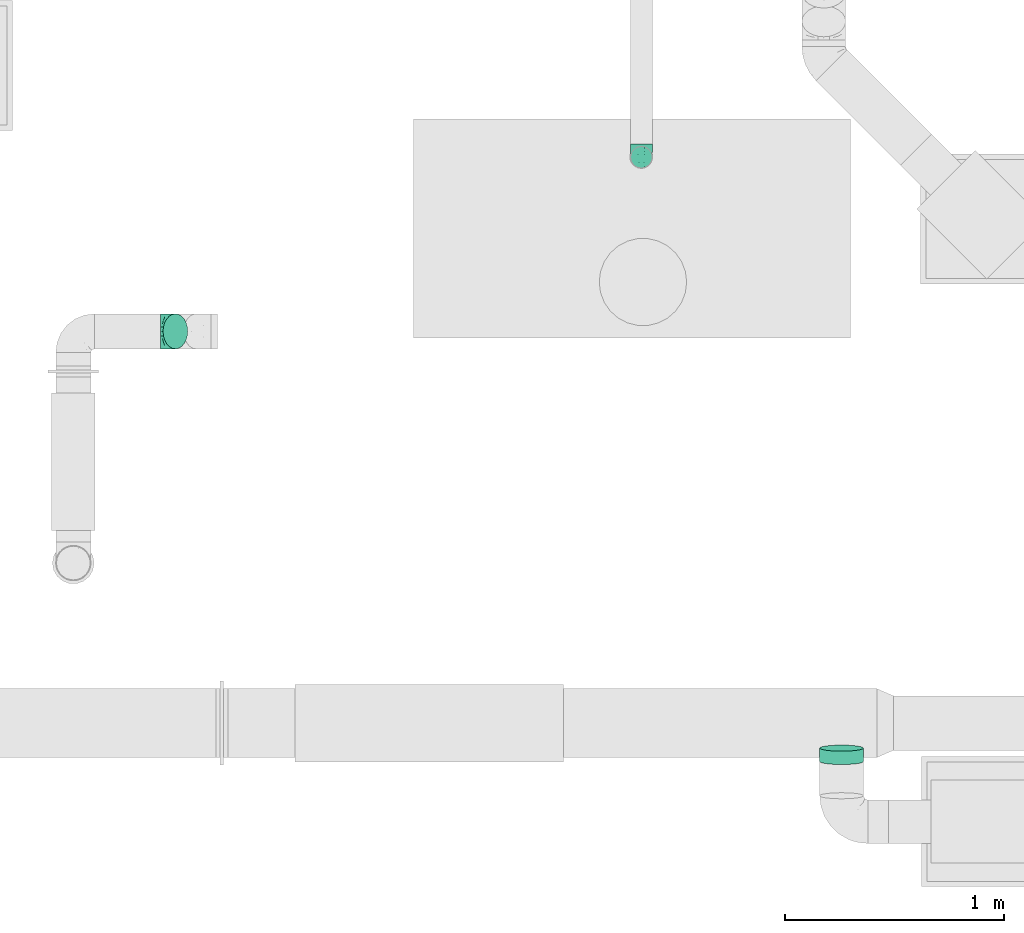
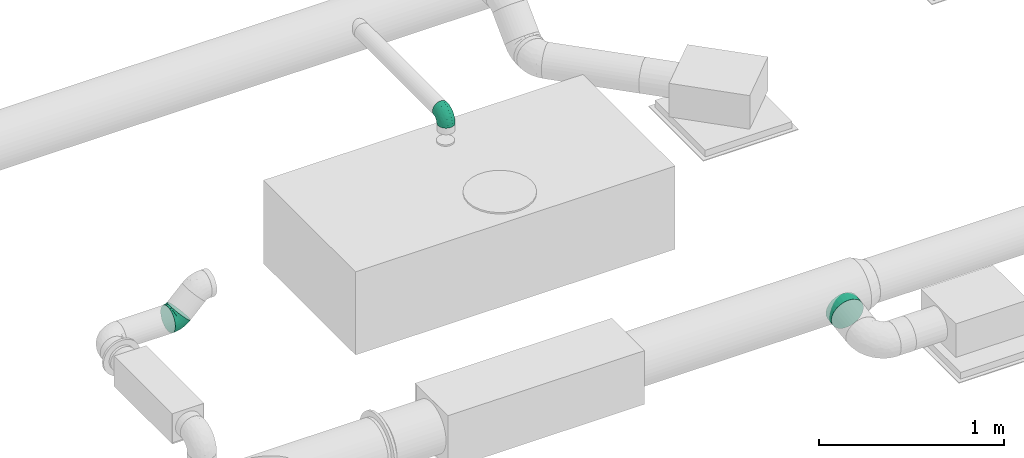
# One storey, part 13 of 16: 3 flow fittings.
"""IFC2X3 building model written with IfcOpenShell, lengths in millimetres."""

from ifc_helpers import new_model, entity, si_unit, converted_unit, derived_unit, direction, frame, origin_with_axes, place, context, subcontext, project, spatial, open_shell, surface_model, source, transform, mapped, type_object, element, save


model = new_model("IFC2X3")

# Units and contexts
model_context = context("Model", 3, precision=0.01, world=frame((0.0, 4.29681676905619e-09, 0.0)), true_north=direction((4.01073788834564e-13, 1.0)))
plan_context = context("Plan", 3, precision=0.01, world=frame((0.0, 4.29681676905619e-09, 0.0)), true_north=direction((4.01073788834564e-13, 1.0)))
body_context = subcontext(model_context, "Body", "Model", "MODEL_VIEW")
ifc_project = project(units=[converted_unit("PLANEANGLEUNIT", "DEGREE", entity("IfcPositiveLengthMeasure", 0.0174532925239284), si_unit("PLANEANGLEUNIT", "RADIAN"), dimensions=[0, 0, 0, 0, 0, 0, 0]), si_unit("AREAUNIT", "SQUARE_METRE"), si_unit("LENGTHUNIT", "METRE", prefix="MILLI"), si_unit("MASSUNIT", "GRAM", prefix="KILO"), si_unit("POWERUNIT", "WATT"), si_unit("PRESSUREUNIT", "PASCAL"), si_unit("FORCEUNIT", "NEWTON", prefix="KILO"), si_unit("ELECTRICVOLTAGEUNIT", "VOLT"), si_unit("ELECTRICCURRENTUNIT", "AMPERE"), si_unit("THERMODYNAMICTEMPERATUREUNIT", "DEGREE_CELSIUS"), si_unit("TIMEUNIT", "SECOND"), si_unit("VOLUMEUNIT", "CUBIC_METRE"), derived_unit("LINEARVELOCITYUNIT", [(si_unit("LENGTHUNIT", "METRE"), 1), (si_unit("TIMEUNIT", "SECOND"), -1)]), derived_unit("VOLUMETRICFLOWRATEUNIT", [(si_unit("VOLUMEUNIT", "CUBIC_METRE"), 1), (si_unit("TIMEUNIT", "SECOND"), -1)]), derived_unit("THERMALTRANSMITTANCEUNIT", [(si_unit("POWERUNIT", "WATT"), 1), (si_unit("THERMODYNAMICTEMPERATUREUNIT", "KELVIN"), -1), (si_unit("AREAUNIT", "SQUARE_METRE"), -1)]), derived_unit("SOUNDPRESSUREUNIT", [(si_unit("PRESSUREUNIT", "PASCAL"), 1)])], contexts=[model_context, plan_context])

# Site, building, storey
site_placement = place(None, frame((0.0, -4.29681676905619e-09, 0.0), z_axis=(0.0, 0.0, 1.0), x_axis=(1.0, 0.0, 0.0)))
site = spatial("IfcSite", under=ifc_project, at=site_placement, Name="ENGM", CompositionType="ELEMENT")
building_placement = place(site_placement, frame((0.0, 4.29681676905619e-09, 0.0), z_axis=(0.0, 0.0, 1.0), x_axis=(1.0, 0.0, 0.0)))
building = spatial("IfcBuilding", under=site, at=building_placement, Name="TH", CompositionType="ELEMENT")
storey_placement = place(building_placement, frame((0.0, 0.0, 210200.0), z_axis=(0.0, 0.0, 1.0), x_axis=(1.0, 0.0, 0.0)))
storey = spatial("IfcBuildingStorey", under=building, at=storey_placement, Name="Nivå F - 0,7 m", CompositionType="ELEMENT", Elevation=210200.0)

# Flow fittings
duct_fitting_type_1 = type_object("IfcDuctFittingType", Name="magicirc_elbow_short_001", PredefinedType="BEND")
shared_shape_1 = source(origin_with_axes(), body_context, "Body", "SurfaceModel", [
    surface_model("IfcShellBasedSurfaceModel", [(-60.0, 0.0, -50.0), (-60.0, -35.35534, -35.35534), (-60.0, 12.94095, -48.29629), (-60.0, 25.0, -43.30127), (-60.0, 35.35534, -35.35534), (-60.0, 48.29629, -12.94095), (-60.0, 43.30127, -25.0), (-60.0, -43.30127, -25.0), (-60.0, -25.0, -43.30127), (-60.0, -12.94095, -48.29629), (-60.0, -48.29629, -12.94095), (-60.0, -50.0, 0.0), (-60.0, 48.29629, 12.94095), (-60.0, -48.29629, 12.94095), (-60.0, 43.30127, 25.0), (-60.0, 12.94095, 48.29629), (-60.0, 25.0, 43.30127), (-60.0, 35.35534, 35.35534), (-60.0, -12.94095, 48.29629), (-60.0, -35.35534, 35.35534), (-60.0, -25.0, 43.30127), (-60.0, -43.30127, 25.0), (-60.0, 0.0, 50.0), (-60.0, 50.0, 0.0), (-12.94095, 60.0, -48.29629), (35.35534, 60.0, -35.35534), (0.0, 60.0, -50.0), (-35.35534, 60.0, -35.35534), (-25.0, 60.0, -43.30127), (-43.30127, 60.0, -25.0), (-48.29629, 60.0, -12.94095), (43.30127, 60.0, -25.0), (12.94095, 60.0, -48.29629), (25.0, 60.0, -43.30127), (50.0, 60.0, 0.0), (48.29629, 60.0, -12.94095), (-48.29629, 60.0, 12.94095), (48.29629, 60.0, 12.94095), (-12.94095, 60.0, 48.29629), (-43.30127, 60.0, 25.0), (-35.35534, 60.0, 35.35534), (-25.0, 60.0, 43.30127), (12.94095, 60.0, 48.29629), (43.30127, 60.0, 25.0), (25.0, 60.0, 43.30127), (35.35534, 60.0, 35.35534), (0.0, 60.0, 50.0), (-50.0, 60.0, 0.0), (-49.05641, -40.78014, 28.07686), (-41.74139, -46.3367, 14.36222), (-34.4613, -40.27816, 24.68934), (-43.00407, -47.30811, 0.0), (-49.94523, 14.00946, 48.30105), (-46.95313, 28.96914, 42.50075), (46.3367, 41.74139, 14.36222), (-20.88861, -37.03291, 22.5647), (-16.4026, -28.83356, 31.34472), (-28.91958, -34.3595, 30.85223), (18.10514, 18.66307, 41.17251), (21.58514, 39.36004, 43.778), (8.51327, 29.84903, 47.74257), (-16.99336, 43.11283, 48.05884), (-3.94145, 44.15134, 49.96957), (-39.36004, -21.58514, 43.778), (-18.66308, -18.10515, 41.17251), (-29.84903, -8.51328, 47.74257), (-41.9573, -32.34565, 36.5753), (-28.37388, -26.91103, 38.00832), (-51.90807, 51.90807, 11.92844), (-47.80359, 49.33659, 24.11672), (-28.93889, 47.43922, 42.40283), (-46.41197, -8.97787, 48.92686), (-0.09017, -16.24979, 33.6631), (12.70267, -16.06536, 21.33056), (15.36559, -1.44444, 33.36569), (-60.0, 18.97048, 45.79878), (-40.35124, 17.20012, 48.30581), (-43.53571, 3.92608, 49.97569), (-26.09843, 9.45196, 49.99253), (-51.5116, 38.91169, 33.33375), (32.34565, 41.9573, 36.5753), (34.35951, 28.91958, 30.85223), (40.27816, 34.4613, 24.68934), (-52.61929, 44.31625, 26.06878), (8.97787, 46.41197, 48.92686), (35.05077, 17.83795, 23.78173), (-10.91916, -35.95936, 14.72435), (0.1648, -30.9508, 9.70158), (-0.15411, -27.04416, 20.4372), (40.78014, 49.05641, 28.07686), (42.5446, 25.37721, 13.17911), (10.3038, -23.16744, 10.42515), (23.10443, -10.2139, 10.9112), (44.61622, 26.00813, 0.0), (47.30811, 43.00407, 0.0), (-41.6247, 41.6247, 36.64818), (-32.79843, 33.16447, 45.0026), (-7.74598, 15.87608, 49.29079), (-16.01986, 0.79004, 48.07025), (-10.25052, 32.07013, 49.9131), (-52.92893, 52.92893, 0.0), (-38.91169, 51.5116, 33.33375), (28.83356, 16.40259, 31.34471), (27.33735, 28.92629, 37.82427), (-10.67588, -36.80404, 0.0), (-21.08205, 25.01341, 49.40856), (-25.37722, -42.5446, 13.17911), (-29.47083, 18.17163, 49.32045), (-0.61358, 32.07268, 49.68255), (-26.00813, -44.61622, 0.0), (7.80932, 12.55065, 44.51845), (-1.21982, 1.21981, 44.32954), (4.65638, -28.99187, 0.0), (25.46941, -0.89956, 21.90452), (30.92711, -0.19201, 9.72551), (36.80404, 10.67588, 0.0), (8.17237, 0.7096, 39.73636), (-1.20691, -8.42775, 39.83684), (-11.83114, -8.12805, 44.16701), (16.82412, -16.82412, 0.0), (35.95936, 10.91916, 14.72435), (28.99187, -4.65638, 0.0), (-18.97048, 60.0, -45.79878), (-14.00946, 49.94523, -48.30105), (-41.74139, -46.3367, -14.36222), (-34.4613, -40.27816, -24.68934), (-25.37722, -42.5446, -13.17911), (-43.11283, 16.99336, -48.05884), (-44.15134, 3.94145, -49.96957), (-49.33659, 47.80359, -24.11672), (-41.6247, 41.62469, -36.64818), (-51.5116, 38.91169, -33.33375), (23.16744, -10.3038, -10.42516), (10.2139, -23.10443, -10.91121), (16.06535, -12.70269, -21.33057), (35.95935, 10.91916, -14.72435), (30.9508, -0.1648, -9.70158), (27.04415, 0.15411, -20.43721), (-18.66308, -18.10515, -41.17251), (-16.4026, -28.83356, -31.34471), (-28.92629, -27.33736, -37.82427), (-15.87607, 7.74598, -49.29079), (-9.45197, 26.09843, -49.99253), (-0.79005, 16.01985, -48.07025), (-25.01341, 21.08205, -49.40856), (-49.05641, -40.78014, -28.07686), (-47.43922, 28.93889, -42.40283), (-33.16447, 32.79843, -45.0026), (-51.90807, 51.90807, -11.92844), (-41.9573, -32.34565, -36.57529), (-39.36004, -21.58514, -43.778), (-29.84903, -8.51328, -47.74257), (-46.41197, -8.97787, -48.92686), (-28.91958, -34.3595, -30.85223), (-17.83796, -35.05077, -23.78173), (21.58514, 39.36004, -43.778), (26.91103, 28.37388, -38.00832), (18.10514, 18.66307, -41.17251), (-38.91169, 51.5116, -33.33375), (-44.31625, 52.61929, -26.06878), (-17.20012, 40.35123, -48.30581), (-3.92607, 43.53571, -49.97569), (8.51327, 29.84903, -47.74257), (8.97787, 46.41197, -48.92686), (40.78014, 49.05641, -28.07686), (-28.96914, 46.95314, -42.50075), (16.24979, 0.09016, -33.6631), (1.44442, -15.3656, -33.36569), (32.34565, 41.9573, -36.5753), (46.3367, 41.74139, -14.36222), (34.3595, 28.91958, -30.85223), (37.03291, 20.8886, -22.5647), (28.83356, 16.4026, -31.34472), (40.27816, 34.4613, -24.68934), (-32.07013, 10.25052, -49.9131), (42.5446, 25.37721, -13.17911), (-18.17164, 29.47083, -49.32045), (-32.07268, 0.61357, -49.68255), (-12.55064, -7.80933, -44.51844), (-1.21981, 1.21981, -44.32953), (0.89955, -25.46942, -21.90453), (0.19201, -30.92711, -9.72551), (-0.7096, -8.17237, -39.73635), (8.42775, 1.20691, -39.83684), (8.12805, 11.83114, -44.16701), (-10.91916, -35.95936, -14.72435)], [open_shell([[[0, 1, 2]], [[3, 2, 4]], [[5, 6, 4]], [[7, 4, 2]], [[4, 7, 5]], [[8, 1, 9]], [[1, 0, 9]], [[10, 11, 7]], [[7, 2, 1]], [[7, 11, 5]], [[11, 12, 5]], [[12, 11, 13]], [[14, 12, 15]], [[15, 16, 17]], [[14, 15, 17]], [[15, 12, 18]], [[19, 20, 21]], [[13, 21, 20]], [[13, 20, 12]], [[20, 18, 12]], [[18, 22, 15]], [[23, 5, 12]], [[24, 25, 26]], [[27, 24, 28]], [[27, 29, 30]], [[24, 27, 31]], [[30, 31, 27]], [[32, 25, 33]], [[32, 26, 25]], [[31, 34, 35]], [[25, 24, 31]], [[30, 34, 31]], [[30, 36, 34]], [[37, 34, 36]], [[38, 36, 39]], [[40, 41, 38]], [[40, 38, 39]], [[42, 36, 38]], [[43, 44, 45]], [[44, 43, 37]], [[36, 44, 37]], [[36, 42, 44]], [[38, 46, 42]], [[36, 30, 47]], [[48, 49, 50]], [[51, 13, 11]], [[52, 53, 16]], [[43, 54, 37]], [[55, 56, 57]], [[58, 59, 60]], [[38, 61, 62]], [[63, 64, 65]], [[20, 66, 63]], [[57, 67, 66]], [[68, 69, 36]], [[19, 21, 48]], [[41, 70, 61]], [[22, 18, 71]], [[72, 73, 74]], [[16, 75, 52]], [[76, 77, 78]], [[18, 20, 63]], [[49, 21, 13]], [[17, 79, 14]], [[80, 81, 82]], [[79, 83, 14]], [[16, 53, 17]], [[41, 40, 70]], [[12, 68, 23]], [[63, 65, 71]], [[42, 46, 84]], [[83, 12, 14]], [[59, 42, 84]], [[81, 85, 82]], [[86, 87, 88]], [[42, 59, 44]], [[45, 89, 43]], [[62, 46, 38]], [[54, 82, 90]], [[54, 43, 89]], [[52, 75, 15]], [[59, 80, 44]], [[91, 92, 73]], [[54, 93, 94]], [[70, 95, 96]], [[97, 78, 98]], [[99, 62, 61]], [[100, 23, 68]], [[20, 19, 66]], [[100, 68, 47]], [[63, 67, 64]], [[95, 101, 69]], [[58, 102, 103]], [[39, 101, 40]], [[87, 86, 104]], [[39, 36, 69]], [[61, 70, 96]], [[97, 105, 78]], [[38, 41, 61]], [[15, 22, 77]], [[106, 86, 55]], [[80, 45, 44]], [[82, 85, 90]], [[13, 51, 49]], [[94, 37, 54]], [[71, 77, 22]], [[107, 78, 105]], [[76, 107, 96]], [[79, 53, 95]], [[101, 70, 40]], [[95, 53, 96]], [[99, 61, 105]], [[62, 108, 84]], [[103, 80, 59]], [[89, 80, 82]], [[48, 66, 19]], [[57, 66, 50]], [[77, 65, 78]], [[109, 49, 51]], [[34, 37, 94]], [[98, 78, 65]], [[110, 97, 111]], [[99, 108, 62]], [[50, 49, 106]], [[87, 112, 91]], [[113, 92, 114]], [[102, 58, 74]], [[102, 74, 113]], [[115, 93, 90]], [[111, 116, 110]], [[74, 73, 113]], [[111, 117, 116]], [[118, 117, 111]], [[72, 64, 56]], [[98, 118, 111]], [[72, 56, 88]], [[74, 116, 117]], [[76, 96, 53]], [[61, 96, 105]], [[91, 112, 119]], [[113, 120, 85]], [[114, 92, 121]], [[121, 92, 119]], [[73, 92, 113]], [[92, 91, 119]], [[91, 73, 88]], [[72, 88, 73]], [[55, 88, 56]], [[62, 84, 46]], [[59, 84, 60]], [[63, 71, 18]], [[77, 71, 65]], [[49, 109, 106]], [[114, 115, 120]], [[90, 120, 115]], [[93, 54, 90]], [[69, 101, 39]], [[70, 101, 95]], [[53, 79, 17]], [[83, 95, 69]], [[105, 97, 99]], [[108, 97, 60]], [[97, 108, 99]], [[84, 108, 60]], [[88, 87, 91]], [[106, 104, 86]], [[95, 83, 79]], [[83, 69, 68]], [[68, 12, 83]], [[47, 68, 36]], [[49, 48, 21]], [[66, 48, 50]], [[80, 89, 45]], [[54, 89, 82]], [[52, 77, 76]], [[77, 52, 15]], [[52, 76, 53]], [[58, 103, 59]], [[81, 103, 102]], [[103, 81, 80]], [[85, 81, 102]], [[113, 85, 102]], [[85, 120, 90]], [[55, 57, 50]], [[67, 57, 56]], [[64, 67, 56]], [[66, 67, 63]], [[106, 55, 50]], [[55, 86, 88]], [[96, 107, 105]], [[76, 78, 107]], [[118, 65, 64]], [[97, 98, 111]], [[65, 118, 98]], [[117, 64, 72]], [[64, 117, 118]], [[74, 117, 72]], [[74, 58, 116]], [[110, 116, 58]], [[58, 60, 110]], [[97, 110, 60]], [[104, 106, 109]], [[112, 87, 104]], [[115, 114, 121]], [[113, 114, 120]], [[122, 24, 123]], [[124, 125, 126]], [[3, 127, 2]], [[0, 2, 128]], [[129, 130, 131]], [[132, 133, 134]], [[6, 131, 4]], [[135, 136, 137]], [[6, 5, 129]], [[138, 139, 140]], [[141, 142, 143]], [[144, 142, 141]], [[124, 7, 145]], [[146, 130, 147]], [[124, 109, 51]], [[148, 129, 5]], [[149, 8, 150]], [[138, 150, 151]], [[9, 150, 8]], [[127, 146, 147]], [[3, 4, 146]], [[145, 7, 1]], [[1, 8, 149]], [[9, 152, 150]], [[153, 154, 125]], [[149, 153, 125]], [[23, 100, 148]], [[125, 154, 126]], [[47, 30, 148]], [[155, 156, 157]], [[29, 158, 159]], [[32, 33, 155]], [[136, 135, 115]], [[27, 158, 29]], [[28, 122, 123]], [[146, 127, 3]], [[160, 161, 142]], [[155, 162, 163]], [[25, 31, 164]], [[27, 28, 165]], [[166, 134, 167]], [[32, 163, 26]], [[168, 155, 33]], [[2, 127, 128]], [[169, 31, 35]], [[170, 171, 172]], [[162, 155, 157]], [[9, 0, 152]], [[173, 164, 169]], [[24, 26, 161]], [[34, 94, 35]], [[33, 25, 168]], [[174, 128, 127]], [[170, 156, 168]], [[123, 165, 28]], [[7, 124, 10]], [[35, 94, 169]], [[148, 5, 23]], [[175, 135, 171]], [[159, 30, 29]], [[51, 10, 124]], [[163, 161, 26]], [[160, 142, 176]], [[160, 176, 147]], [[158, 165, 130]], [[131, 146, 4]], [[130, 165, 147]], [[174, 127, 144]], [[128, 177, 152]], [[140, 149, 150]], [[145, 149, 125]], [[164, 168, 25]], [[170, 168, 173]], [[161, 162, 142]], [[93, 169, 94]], [[11, 10, 51]], [[143, 142, 162]], [[178, 141, 179]], [[174, 177, 128]], [[173, 169, 175]], [[136, 121, 132]], [[180, 133, 181]], [[139, 138, 167]], [[139, 167, 180]], [[104, 109, 126]], [[179, 182, 178]], [[167, 134, 180]], [[179, 183, 182]], [[184, 183, 179]], [[166, 157, 172]], [[143, 184, 179]], [[166, 172, 137]], [[167, 182, 183]], [[160, 147, 165]], [[127, 147, 144]], [[132, 121, 119]], [[180, 185, 154]], [[181, 133, 112]], [[112, 133, 119]], [[134, 133, 180]], [[133, 132, 119]], [[132, 134, 137]], [[166, 137, 134]], [[171, 137, 172]], [[128, 152, 0]], [[150, 152, 151]], [[155, 163, 32]], [[161, 163, 162]], [[169, 93, 175]], [[181, 104, 185]], [[126, 185, 104]], [[109, 124, 126]], [[129, 131, 6]], [[146, 131, 130]], [[165, 158, 27]], [[159, 130, 129]], [[144, 141, 174]], [[177, 141, 151]], [[141, 177, 174]], [[152, 177, 151]], [[137, 136, 132]], [[175, 115, 135]], [[130, 159, 158]], [[159, 129, 148]], [[47, 148, 100]], [[148, 30, 159]], [[169, 164, 31]], [[168, 164, 173]], [[149, 145, 1]], [[124, 145, 125]], [[160, 165, 123]], [[24, 161, 123]], [[161, 160, 123]], [[138, 140, 150]], [[153, 140, 139]], [[140, 153, 149]], [[154, 153, 139]], [[180, 154, 139]], [[154, 185, 126]], [[171, 170, 173]], [[156, 170, 172]], [[157, 156, 172]], [[168, 156, 155]], [[175, 171, 173]], [[171, 135, 137]], [[142, 144, 176]], [[147, 176, 144]], [[184, 162, 157]], [[141, 143, 179]], [[162, 184, 143]], [[183, 157, 166]], [[157, 183, 184]], [[167, 183, 166]], [[167, 138, 182]], [[178, 182, 138]], [[138, 151, 178]], [[141, 178, 151]], [[115, 175, 93]], [[121, 136, 115]], [[104, 181, 112]], [[180, 181, 185]]])]),
])
flow_fitting_1_placement = place(storey_placement, frame((900918.80745, 485265.84144, 2803.20000000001), z_axis=(1.0, 0.0, 0.0), x_axis=(0.0, -1.0, 0.0)))
element("IfcFlowFitting", 1, at=flow_fitting_1_placement, inside=storey, type_object=duct_fitting_type_1, Name="magicirc_elbow_short_001", context=body_context, shape_type="MappedRepresentation", body=[
    mapped(shared_shape_1, transform((0.0, 0.0, 0.0), scale=1.0)),
])
shared_shape_2 = source(origin_with_axes(), body_context, "Body", "SurfaceModel", [
    surface_model("IfcShellBasedSurfaceModel", [(-0.16652, 56.40202, 69.28203), (-11.88225, 68.11775, 56.56854), (-20.34085, 49.10716, 65.97743), (-16.91372, 29.58807, 75.73686), (-24.38574, 9.15622, 79.61835), (-4.70279, 11.35352, 79.88004), (-16.91372, 29.58807, -75.73686), (-4.70279, 11.35352, -79.88004), (-24.38575, 9.15621, -79.61835), (11.42317, -27.57797, -70.52797), (17.38053, -41.96031, -59.634), (-7.30321, -48.86985, -60.39638), (-11.88225, 68.11775, -56.56854), (-0.16652, 56.40202, -69.28203), (-20.34085, 49.10716, -65.97743), (-15.7878, -31.72587, -72.43572), (-26.51037, 64.00169, -51.32545), (26.5122, -63.88975, -21.40993), (27.01157, -65.21171, 0.0), (5.78765, -74.00295, 0.0), (-39.76452, 40.0, -69.28203), (-39.76452, 20.70552, -77.27406), (-39.76452, 0.0, -80.0), (-39.76452, -56.56854, -56.56854), (-39.76452, 77.27406, -20.70552), (-39.76452, 69.28203, -40.0), (-39.76452, 56.56854, -56.56854), (-39.76452, -80.0, 0.0), (-39.76452, 80.0, 0.0), (-39.76452, -40.0, -69.28203), (-39.76452, -20.70552, -77.27406), (-39.76452, -77.27406, -20.70552), (-39.76452, -69.28203, -40.0), (-39.76452, 69.28203, 40.0), (-39.76452, 77.27406, 20.70552), (-39.76452, 56.56854, 56.56854), (-39.76452, 20.70552, 77.27406), (-39.76452, 40.0, 69.28203), (-39.76452, -56.56854, 56.56854), (-39.76452, -77.27406, 20.70552), (-39.76452, -69.28203, 40.0), (-39.76452, -40.0, 69.28203), (-39.76452, -20.70552, 77.27406), (-39.76452, 0.0, 80.0), (28.11775, 28.11777, -80.0), (13.47673, 42.75878, -77.27406), (68.11776, -11.88222, -56.56854), (-20.87206, 77.10755, -40.0), (-26.52328, 82.75877, -20.70552), (84.68631, -28.45076, 0.0), (42.75877, 13.47676, -77.27406), (56.40203, -0.1665, -69.28203), (77.10756, -20.87201, -40.0), (82.75878, -26.52323, -20.70552), (-28.4508, 84.68629, 0.0), (-26.52328, 82.75877, 20.70552), (-20.87206, 77.10755, 40.0), (13.47673, 42.75878, 77.27406), (42.75877, 13.47676, 77.27406), (77.10756, -20.87201, 40.0), (82.75878, -26.52323, 20.70552), (68.11776, -11.88222, 56.56854), (56.40203, -0.1665, 69.28203), (28.11775, 28.11777, 80.0), (-19.9922, -77.39692, 0.0), (-6.79574, -72.52224, 25.82546), (10.7689, 23.71775, 79.61835), (48.23551, -56.42046, 0.0), (40.58426, -57.54968, 20.60266), (22.66406, -65.48794, 21.21823), (39.69041, -51.97397, 34.96088), (-15.7878, -31.72586, 72.43572), (-13.40907, -11.42117, 78.65516), (33.59724, -11.2699, 72.43572), (39.72035, -29.39204, 60.39638), (56.08629, -46.47564, 25.82546), (54.75003, -35.28208, 45.55148), (11.42316, -27.57797, 70.52798), (17.38052, -41.96031, 59.634), (-13.76591, -63.66231, 45.55148), (-26.51038, 64.00169, 51.32546), (-30.93849, 74.69209, 32.86745), (17.55763, 1.40566, 78.65516), (-33.64158, 81.21793, 0.0), (34.96028, -44.40517, 49.23919), (68.86452, -40.59125, 0.0), (19.97905, -57.4023, 41.11616), (54.75003, -35.28207, -45.55148), (39.72036, -29.39204, -60.39638), (-13.40907, -11.42118, -78.65516), (-30.93849, 74.69209, -32.86745), (-13.76591, -63.66231, -45.55148), (19.97906, -57.4023, -41.11617), (-6.79574, -72.52224, -25.82547), (17.55763, 1.40566, -78.65516), (40.78462, -50.31012, -36.83109), (32.55988, -44.95753, -50.02581), (56.08629, -46.47564, -25.82547), (-0.70163, 33.68353, -76.7847), (10.7689, 23.71774, -79.61835), (33.59724, -11.2699, -72.43572), (-7.30322, -48.86985, 60.39638), (-0.70162, 33.68354, 76.7847)], [open_shell([[[0, 1, 2]], [[3, 4, 5]], [[6, 7, 8]], [[9, 10, 11]], [[12, 13, 14]], [[11, 15, 9]], [[14, 16, 12]], [[17, 18, 19]], [[20, 21, 22]], [[20, 22, 23]], [[24, 25, 26]], [[26, 20, 23]], [[26, 27, 28]], [[29, 23, 30]], [[23, 22, 30]], [[31, 27, 32]], [[23, 32, 27]], [[23, 27, 26]], [[28, 24, 26]], [[33, 34, 28]], [[35, 33, 28]], [[36, 37, 35]], [[28, 36, 35]], [[38, 36, 28]], [[39, 40, 27]], [[27, 40, 38]], [[41, 42, 38]], [[42, 36, 38]], [[36, 42, 43]], [[28, 27, 38]], [[44, 45, 13]], [[46, 44, 13]], [[12, 47, 48]], [[12, 48, 13]], [[49, 13, 48]], [[50, 46, 51]], [[50, 44, 46]], [[52, 49, 53]], [[49, 52, 46]], [[13, 49, 46]], [[48, 54, 49]], [[54, 55, 56]], [[54, 56, 57]], [[1, 0, 57]], [[1, 57, 56]], [[57, 58, 49]], [[59, 60, 49]], [[61, 59, 49]], [[61, 58, 62]], [[49, 58, 61]], [[63, 58, 57]], [[57, 49, 54]], [[39, 64, 65]], [[64, 19, 65]], [[63, 57, 66]], [[18, 67, 68]], [[40, 39, 65]], [[69, 68, 70]], [[42, 41, 71]], [[72, 5, 4]], [[73, 74, 62]], [[75, 59, 76]], [[62, 58, 73]], [[4, 3, 36]], [[36, 43, 4]], [[77, 78, 74]], [[35, 37, 2]], [[40, 65, 79]], [[80, 33, 35]], [[34, 33, 81]], [[82, 72, 77]], [[34, 83, 28]], [[70, 76, 84]], [[63, 66, 82]], [[74, 61, 62]], [[43, 42, 72]], [[63, 82, 58]], [[76, 61, 74]], [[75, 60, 59]], [[76, 59, 61]], [[34, 81, 55]], [[75, 85, 60]], [[73, 82, 77]], [[38, 40, 79]], [[84, 76, 74]], [[55, 83, 34]], [[86, 79, 65]], [[54, 83, 55]], [[82, 73, 58]], [[81, 56, 55]], [[1, 80, 2]], [[71, 72, 42]], [[81, 80, 56]], [[37, 36, 3]], [[72, 82, 5]], [[74, 73, 77]], [[2, 80, 35]], [[39, 27, 64]], [[72, 71, 77]], [[85, 75, 67]], [[85, 49, 60]], [[1, 56, 80]], [[69, 19, 18]], [[70, 68, 75]], [[80, 81, 33]], [[72, 4, 43]], [[3, 2, 37]], [[82, 66, 5]], [[84, 78, 86]], [[78, 84, 74]], [[70, 84, 86]], [[70, 86, 69]], [[76, 70, 75]], [[86, 65, 69]], [[19, 69, 65]], [[18, 68, 69]], [[67, 75, 68]], [[46, 87, 88]], [[51, 46, 88]], [[14, 6, 20]], [[30, 22, 89]], [[25, 90, 16]], [[91, 92, 93]], [[14, 26, 16]], [[44, 50, 94]], [[87, 95, 96]], [[92, 17, 93]], [[90, 24, 48]], [[93, 64, 31]], [[89, 15, 30]], [[52, 97, 87]], [[31, 32, 93]], [[23, 29, 11]], [[91, 32, 23]], [[53, 49, 85]], [[15, 29, 30]], [[45, 98, 13]], [[89, 94, 9]], [[95, 87, 97]], [[24, 28, 83]], [[64, 93, 19]], [[83, 54, 48]], [[93, 32, 91]], [[48, 47, 90]], [[26, 14, 20]], [[91, 23, 11]], [[99, 98, 45]], [[29, 15, 11]], [[8, 89, 22]], [[25, 16, 26]], [[46, 52, 87]], [[8, 22, 21]], [[100, 50, 51]], [[45, 44, 99]], [[17, 67, 18]], [[9, 100, 88]], [[93, 17, 19]], [[7, 99, 94]], [[97, 53, 85]], [[100, 94, 50]], [[97, 85, 67]], [[92, 91, 11]], [[15, 89, 9]], [[52, 53, 97]], [[10, 9, 88]], [[94, 89, 7]], [[88, 100, 51]], [[83, 48, 24]], [[94, 100, 9]], [[64, 27, 31]], [[47, 12, 16]], [[17, 92, 95]], [[16, 90, 47]], [[24, 90, 25]], [[21, 20, 6]], [[89, 8, 7]], [[21, 6, 8]], [[14, 13, 98]], [[94, 99, 44]], [[98, 7, 6]], [[7, 98, 99]], [[98, 6, 14]], [[92, 96, 95]], [[92, 11, 10]], [[97, 67, 17]], [[92, 10, 96]], [[97, 17, 95]], [[10, 88, 96]], [[87, 96, 88]], [[71, 101, 77]], [[86, 101, 79]], [[79, 101, 38]], [[101, 71, 41]], [[41, 38, 101]], [[78, 77, 101]], [[2, 102, 0]], [[102, 2, 3]], [[5, 66, 102]], [[102, 66, 57]], [[0, 102, 57]], [[5, 102, 3]], [[101, 86, 78]]])]),
])
flow_fitting_2_placement = place(storey_placement, frame((898758.7375, 484469.03742, 2700.0), z_axis=(0.0, 1.0, 0.0), x_axis=(-0.707106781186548, 0.0, -0.707106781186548)))
element("IfcFlowFitting", 2, at=flow_fitting_2_placement, inside=storey, type_object=duct_fitting_type_1, Name="magicirc_elbow_short_001", context=body_context, shape_type="MappedRepresentation", body=[
    mapped(shared_shape_2, transform((0.0, 0.0, 0.0), scale=1.0)),
])
duct_fitting_type_2 = type_object("IfcDuctFittingType", Name="magicirc_tapoutlet_001", PredefinedType="CONNECTOR")
shared_shape_3 = source(origin_with_axes(), body_context, "Body", "SurfaceModel", [
    surface_model("IfcShellBasedSurfaceModel", [(-41.91507, 0.0, -100.0), (-41.91507, -25.8819, -96.59259), (-41.91507, 25.8819, -96.59259), (-41.91507, 96.59259, 25.8819), (-41.91507, 50.0, -86.60254), (-41.91507, 86.60254, -50.0), (-41.91507, 70.71068, -70.71068), (-41.91507, -100.0, 0.0), (-41.91507, -96.59259, 25.8819), (-41.91507, -70.71068, -70.71068), (-41.91507, -50.0, -86.60254), (-41.91507, -96.59259, -25.8819), (-41.91507, -86.60254, -50.0), (-41.91507, 96.59259, -25.8819), (-41.91507, 86.60254, 50.0), (-41.91507, 70.71068, 70.71068), (-41.91507, 50.0, 86.60254), (-41.91507, 25.8819, 96.59259), (-41.91507, 0.0, 100.0), (-41.91507, -86.60254, 50.0), (-41.91507, -70.71068, 70.71068), (-41.91507, -25.8819, 96.59259), (-41.91507, -50.0, 86.60254), (-41.91507, 100.0, 0.0), (0.0, 0.0, 100.0), (0.0, 25.8819, 96.59259), (0.0, 50.0, 86.60254), (0.0, 70.71068, 70.71068), (0.0, 86.60254, 50.0), (0.0, 96.59259, 25.8819), (0.0, 100.0, 0.0), (0.0, 96.59259, -25.8819), (0.0, 86.60254, -50.0), (0.0, 70.71068, -70.71068), (0.0, 25.8819, -96.59259), (0.0, 0.0, -100.0), (0.0, 50.0, -86.60254), (0.0, -25.8819, -96.59259), (0.0, -50.0, -86.60254), (0.0, -70.71068, -70.71068), (0.0, -86.60254, -50.0), (0.0, -96.59259, -25.8819), (0.0, -100.0, 0.0), (0.0, -96.59259, 25.8819), (0.0, -86.60254, 50.0), (0.0, -70.71068, 70.71068), (0.0, -50.0, 86.60254), (0.0, -25.8819, 96.59259), (20.0, 25.8819, 96.59259), (20.0, 0.0, 100.0), (20.0, -25.8819, 96.59259), (20.0, -50.0, 86.60254), (20.0, 70.71068, 70.71068), (20.0, 50.0, 86.60254), (20.0, 86.60254, 50.0), (20.0, 96.59259, 25.8819), (20.0, 100.0, 0.0), (20.0, 50.0, -86.60254), (20.0, -70.71068, -70.71068), (20.0, -50.0, -86.60254), (20.0, -86.60254, -50.0), (20.0, -96.59259, -25.8819), (20.0, 25.8819, -96.59259), (20.0, 0.0, -100.0), (20.0, 70.71068, -70.71068), (20.0, 86.60254, -50.0), (20.0, -96.59259, 25.8819), (20.0, -25.8819, -96.59259), (20.0, -100.0, 0.0), (20.0, 96.59259, -25.8819), (20.0, -70.71068, 70.71068), (20.0, -86.60254, 50.0)], [open_shell([[[0, 1, 2]], [[2, 3, 4]], [[5, 6, 3]], [[3, 6, 4]], [[2, 7, 8]], [[9, 7, 10]], [[2, 1, 10]], [[11, 7, 12]], [[9, 12, 7]], [[10, 7, 2]], [[13, 5, 3]], [[14, 3, 2]], [[2, 15, 14]], [[16, 2, 17]], [[16, 15, 2]], [[18, 17, 2]], [[19, 20, 2]], [[2, 8, 19]], [[21, 18, 22]], [[2, 20, 22]], [[22, 18, 2]], [[23, 13, 3]], [[18, 24, 25]], [[17, 25, 26]], [[18, 25, 17]], [[16, 27, 15]], [[16, 17, 26]], [[27, 16, 26]], [[14, 28, 29]], [[3, 29, 30]], [[15, 28, 14]], [[3, 14, 29]], [[23, 3, 30]], [[28, 15, 27]], [[23, 30, 31]], [[13, 31, 32]], [[23, 31, 13]], [[5, 33, 6]], [[5, 13, 32]], [[33, 5, 32]], [[34, 35, 0]], [[36, 34, 4]], [[4, 6, 36]], [[0, 2, 34]], [[4, 34, 2]], [[36, 6, 33]], [[0, 35, 37]], [[1, 37, 38]], [[0, 37, 1]], [[10, 39, 9]], [[10, 1, 38]], [[39, 10, 38]], [[12, 40, 41]], [[11, 41, 42]], [[9, 40, 12]], [[11, 12, 41]], [[7, 11, 42]], [[40, 9, 39]], [[7, 42, 43]], [[8, 43, 44]], [[7, 43, 8]], [[19, 45, 20]], [[19, 8, 44]], [[45, 19, 44]], [[22, 46, 47]], [[21, 47, 24]], [[20, 46, 22]], [[21, 22, 47]], [[18, 21, 24]], [[46, 20, 45]], [[48, 49, 50]], [[46, 51, 50]], [[47, 46, 50]], [[45, 51, 46]], [[52, 26, 53]], [[28, 54, 55]], [[29, 55, 56]], [[29, 28, 55]], [[27, 54, 28]], [[30, 29, 56]], [[33, 57, 36]], [[58, 38, 59]], [[60, 39, 58]], [[41, 40, 61]], [[39, 60, 40]], [[62, 56, 63]], [[57, 56, 62]], [[56, 64, 65]], [[56, 57, 64]], [[58, 63, 66]], [[63, 59, 67]], [[63, 58, 59]], [[60, 66, 61]], [[66, 60, 58]], [[68, 61, 66]], [[56, 65, 69]], [[55, 54, 63]], [[54, 52, 63]], [[48, 63, 53]], [[63, 52, 53]], [[63, 48, 50]], [[63, 70, 71]], [[66, 63, 71]], [[63, 51, 70]], [[50, 51, 63]], [[55, 63, 56]], [[24, 49, 48]], [[25, 48, 53]], [[24, 48, 25]], [[26, 52, 27]], [[26, 25, 53]], [[54, 27, 52]], [[30, 56, 69]], [[31, 69, 65]], [[30, 69, 31]], [[32, 64, 33]], [[32, 31, 65]], [[64, 32, 65]], [[62, 63, 34]], [[57, 62, 36]], [[35, 34, 63]], [[62, 34, 36]], [[57, 33, 64]], [[35, 63, 67]], [[37, 67, 59]], [[35, 67, 37]], [[38, 58, 39]], [[38, 37, 59]], [[40, 60, 61]], [[41, 61, 68]], [[42, 41, 68]], [[42, 68, 66]], [[43, 66, 71]], [[42, 66, 43]], [[44, 70, 45]], [[44, 43, 71]], [[70, 44, 71]], [[47, 50, 49]], [[24, 47, 49]], [[51, 45, 70]], [[65, 69, 56]], [[50, 63, 48]], [[63, 71, 66]], [[70, 71, 63]], [[70, 63, 51]], [[63, 56, 55]]])]),
])
flow_fitting_3_placement = place(storey_placement, frame((901834.83019, 482520.73374, 2839.62064000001), z_axis=(0.0, 0.139551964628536, -0.990214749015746), x_axis=(0.0, -0.990214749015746, -0.139551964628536)))
element("IfcFlowFitting", 3, at=flow_fitting_3_placement, inside=storey, type_object=duct_fitting_type_2, Name="magicirc_tapoutlet_001", context=body_context, shape_type="MappedRepresentation", body=[
    mapped(shared_shape_3, transform((0.0, 0.0, 0.0), scale=1.0)),
])

save(model, "model.ifc")
